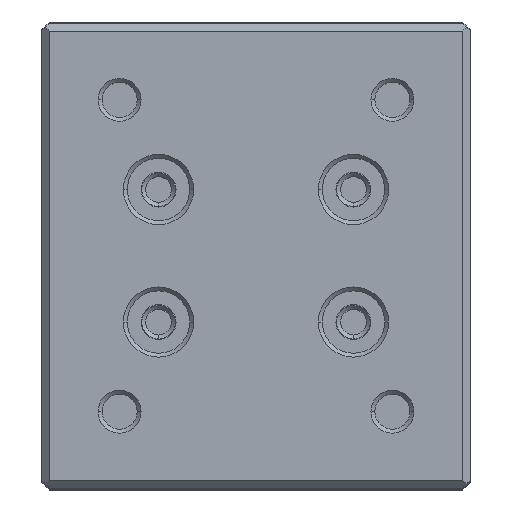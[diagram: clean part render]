
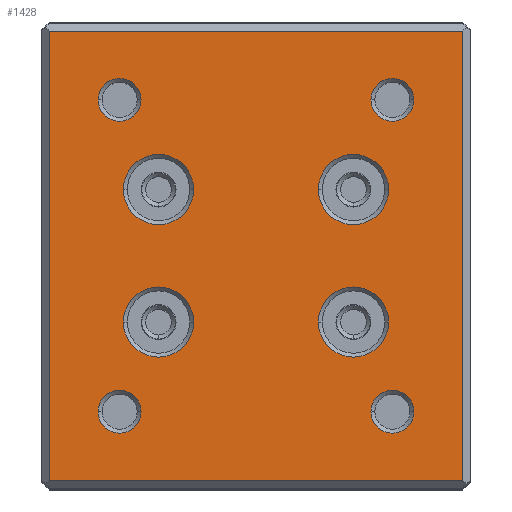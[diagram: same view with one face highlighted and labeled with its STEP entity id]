
A CAD part, top view. The second image highlights one B-rep face of the part: STEP entity #1428.
In plain terms, the highlighted planar face has unit normal (0, 0, 1) as drawn and (0, 0, -1) by its records, which use the part's own axes.
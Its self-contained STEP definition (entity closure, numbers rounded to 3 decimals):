
#1=CARTESIAN_POINT('',(17.5,-20.,0.));
#2=DIRECTION('',(0.,0.,1.));
#3=DIRECTION('',(1.,0.,0.));
#4=AXIS2_PLACEMENT_3D('',#1,#2,#3);
#6=CARTESIAN_POINT('',(17.5,-20.,0.));
#7=DIRECTION('',(0.,0.,1.));
#8=DIRECTION('',(-1.,0.,0.));
#9=AXIS2_PLACEMENT_3D('',#6,#7,#8);
#11=CARTESIAN_POINT('',(-17.5,-20.,0.));
#12=DIRECTION('',(0.,0.,1.));
#13=DIRECTION('',(1.,0.,0.));
#14=AXIS2_PLACEMENT_3D('',#11,#12,#13);
#16=CARTESIAN_POINT('',(-17.5,-20.,0.));
#17=DIRECTION('',(0.,0.,1.));
#18=DIRECTION('',(-1.,0.,0.));
#19=AXIS2_PLACEMENT_3D('',#16,#17,#18);
#21=CARTESIAN_POINT('',(-17.5,20.,0.));
#22=DIRECTION('',(0.,0.,1.));
#23=DIRECTION('',(1.,0.,0.));
#24=AXIS2_PLACEMENT_3D('',#21,#22,#23);
#26=CARTESIAN_POINT('',(-17.5,20.,0.));
#27=DIRECTION('',(0.,0.,1.));
#28=DIRECTION('',(-1.,0.,0.));
#29=AXIS2_PLACEMENT_3D('',#26,#27,#28);
#31=CARTESIAN_POINT('',(17.5,20.,0.));
#32=DIRECTION('',(0.,0.,1.));
#33=DIRECTION('',(1.,0.,0.));
#34=AXIS2_PLACEMENT_3D('',#31,#32,#33);
#36=CARTESIAN_POINT('',(17.5,20.,0.));
#37=DIRECTION('',(0.,0.,1.));
#38=DIRECTION('',(-1.,0.,0.));
#39=AXIS2_PLACEMENT_3D('',#36,#37,#38);
#41=DIRECTION('',(0.,-1.,0.));
#42=VECTOR('',#41,57.6);
#43=CARTESIAN_POINT('',(26.5,28.8,0.));
#44=LINE('',#43,#42);
#45=DIRECTION('',(1.,0.,0.));
#46=VECTOR('',#45,53.);
#47=CARTESIAN_POINT('',(-26.5,28.8,0.));
#48=LINE('',#47,#46);
#49=DIRECTION('',(0.,1.,0.));
#50=VECTOR('',#49,57.6);
#51=CARTESIAN_POINT('',(-26.5,-28.8,0.));
#52=LINE('',#51,#50);
#53=DIRECTION('',(-1.,0.,0.));
#54=VECTOR('',#53,53.);
#55=CARTESIAN_POINT('',(26.5,-28.8,0.));
#56=LINE('',#55,#54);
#57=CARTESIAN_POINT('',(-12.5,8.5,0.));
#58=DIRECTION('',(0.,0.,1.));
#59=DIRECTION('',(-1.,0.,0.));
#60=AXIS2_PLACEMENT_3D('',#57,#58,#59);
#62=CARTESIAN_POINT('',(-12.5,8.5,0.));
#63=DIRECTION('',(0.,0.,1.));
#64=DIRECTION('',(1.,0.,0.));
#65=AXIS2_PLACEMENT_3D('',#62,#63,#64);
#67=CARTESIAN_POINT('',(-12.5,-8.5,0.));
#68=DIRECTION('',(0.,0.,1.));
#69=DIRECTION('',(-1.,0.,0.));
#70=AXIS2_PLACEMENT_3D('',#67,#68,#69);
#72=CARTESIAN_POINT('',(-12.5,-8.5,0.));
#73=DIRECTION('',(0.,0.,1.));
#74=DIRECTION('',(1.,0.,0.));
#75=AXIS2_PLACEMENT_3D('',#72,#73,#74);
#77=CARTESIAN_POINT('',(12.5,8.5,0.));
#78=DIRECTION('',(0.,0.,1.));
#79=DIRECTION('',(-1.,0.,0.));
#80=AXIS2_PLACEMENT_3D('',#77,#78,#79);
#82=CARTESIAN_POINT('',(12.5,8.5,0.));
#83=DIRECTION('',(0.,0.,1.));
#84=DIRECTION('',(1.,0.,0.));
#85=AXIS2_PLACEMENT_3D('',#82,#83,#84);
#87=CARTESIAN_POINT('',(12.5,-8.5,0.));
#88=DIRECTION('',(0.,0.,1.));
#89=DIRECTION('',(-1.,0.,0.));
#90=AXIS2_PLACEMENT_3D('',#87,#88,#89);
#92=CARTESIAN_POINT('',(12.5,-8.5,0.));
#93=DIRECTION('',(0.,0.,1.));
#94=DIRECTION('',(1.,0.,0.));
#95=AXIS2_PLACEMENT_3D('',#92,#93,#94);
#1159=CARTESIAN_POINT('',(20.25,-20.,0.));
#1160=CARTESIAN_POINT('',(14.75,-20.,0.));
#1161=VERTEX_POINT('',#1159);
#1162=VERTEX_POINT('',#1160);
#1167=CARTESIAN_POINT('',(-14.75,-20.,0.));
#1168=CARTESIAN_POINT('',(-20.25,-20.,0.));
#1169=VERTEX_POINT('',#1167);
#1170=VERTEX_POINT('',#1168);
#1175=CARTESIAN_POINT('',(-14.75,20.,0.));
#1176=CARTESIAN_POINT('',(-20.25,20.,0.));
#1177=VERTEX_POINT('',#1175);
#1178=VERTEX_POINT('',#1176);
#1183=CARTESIAN_POINT('',(20.25,20.,0.));
#1184=CARTESIAN_POINT('',(14.75,20.,0.));
#1185=VERTEX_POINT('',#1183);
#1186=VERTEX_POINT('',#1184);
#1231=CARTESIAN_POINT('',(26.5,28.8,0.));
#1232=CARTESIAN_POINT('',(26.5,-28.8,0.));
#1233=VERTEX_POINT('',#1231);
#1234=VERTEX_POINT('',#1232);
#1241=CARTESIAN_POINT('',(-26.5,28.8,0.));
#1242=VERTEX_POINT('',#1241);
#1255=CARTESIAN_POINT('',(-26.5,-28.8,0.));
#1256=VERTEX_POINT('',#1255);
#1279=CARTESIAN_POINT('',(-17.,8.5,0.));
#1280=CARTESIAN_POINT('',(-8.,8.5,0.));
#1281=VERTEX_POINT('',#1279);
#1282=VERTEX_POINT('',#1280);
#1287=CARTESIAN_POINT('',(-17.,-8.5,0.));
#1288=CARTESIAN_POINT('',(-8.,-8.5,0.));
#1289=VERTEX_POINT('',#1287);
#1290=VERTEX_POINT('',#1288);
#1295=CARTESIAN_POINT('',(8.,8.5,0.));
#1296=CARTESIAN_POINT('',(17.,8.5,0.));
#1297=VERTEX_POINT('',#1295);
#1298=VERTEX_POINT('',#1296);
#1303=CARTESIAN_POINT('',(8.,-8.5,0.));
#1304=CARTESIAN_POINT('',(17.,-8.5,0.));
#1305=VERTEX_POINT('',#1303);
#1306=VERTEX_POINT('',#1304);
#1365=CARTESIAN_POINT('',(0.,0.,0.));
#1366=DIRECTION('',(0.,0.,1.));
#1367=DIRECTION('',(1.,0.,0.));
#1368=AXIS2_PLACEMENT_3D('',#1365,#1366,#1367);
#1369=PLANE('',#1368);
#1371=ORIENTED_EDGE('',*,*,#1370,.F.);
#1373=ORIENTED_EDGE('',*,*,#1372,.F.);
#1375=ORIENTED_EDGE('',*,*,#1374,.F.);
#1377=ORIENTED_EDGE('',*,*,#1376,.F.);
#1378=EDGE_LOOP('',(#1371,#1373,#1375,#1377));
#1379=FACE_OUTER_BOUND('',#1378,.F.);
#1381=ORIENTED_EDGE('',*,*,#1380,.F.);
#1383=ORIENTED_EDGE('',*,*,#1382,.F.);
#1384=EDGE_LOOP('',(#1381,#1383));
#1385=FACE_BOUND('',#1384,.F.);
#1387=ORIENTED_EDGE('',*,*,#1386,.F.);
#1389=ORIENTED_EDGE('',*,*,#1388,.F.);
#1390=EDGE_LOOP('',(#1387,#1389));
#1391=FACE_BOUND('',#1390,.F.);
#1393=ORIENTED_EDGE('',*,*,#1392,.F.);
#1395=ORIENTED_EDGE('',*,*,#1394,.F.);
#1396=EDGE_LOOP('',(#1393,#1395));
#1397=FACE_BOUND('',#1396,.F.);
#1399=ORIENTED_EDGE('',*,*,#1398,.F.);
#1401=ORIENTED_EDGE('',*,*,#1400,.F.);
#1402=EDGE_LOOP('',(#1399,#1401));
#1403=FACE_BOUND('',#1402,.F.);
#1405=ORIENTED_EDGE('',*,*,#1404,.F.);
#1407=ORIENTED_EDGE('',*,*,#1406,.F.);
#1408=EDGE_LOOP('',(#1405,#1407));
#1409=FACE_BOUND('',#1408,.F.);
#1411=ORIENTED_EDGE('',*,*,#1410,.F.);
#1413=ORIENTED_EDGE('',*,*,#1412,.F.);
#1414=EDGE_LOOP('',(#1411,#1413));
#1415=FACE_BOUND('',#1414,.F.);
#1417=ORIENTED_EDGE('',*,*,#1416,.F.);
#1419=ORIENTED_EDGE('',*,*,#1418,.F.);
#1420=EDGE_LOOP('',(#1417,#1419));
#1421=FACE_BOUND('',#1420,.F.);
#1423=ORIENTED_EDGE('',*,*,#1422,.F.);
#1425=ORIENTED_EDGE('',*,*,#1424,.F.);
#1426=EDGE_LOOP('',(#1423,#1425));
#1427=FACE_BOUND('',#1426,.F.);
#1428=ADVANCED_FACE('',(#1379,#1385,#1391,#1397,#1403,#1409,#1415,#1421,#1427),
#1369,.F.);
#5=CIRCLE('',#4,2.75);
#10=CIRCLE('',#9,2.75);
#15=CIRCLE('',#14,2.75);
#20=CIRCLE('',#19,2.75);
#25=CIRCLE('',#24,2.75);
#30=CIRCLE('',#29,2.75);
#35=CIRCLE('',#34,2.75);
#40=CIRCLE('',#39,2.75);
#61=CIRCLE('',#60,4.5);
#66=CIRCLE('',#65,4.5);
#71=CIRCLE('',#70,4.5);
#76=CIRCLE('',#75,4.5);
#81=CIRCLE('',#80,4.5);
#86=CIRCLE('',#85,4.5);
#91=CIRCLE('',#90,4.5);
#96=CIRCLE('',#95,4.5);
#1370=EDGE_CURVE('',#1233,#1234,#44,.T.);
#1372=EDGE_CURVE('',#1242,#1233,#48,.T.);
#1374=EDGE_CURVE('',#1256,#1242,#52,.T.);
#1376=EDGE_CURVE('',#1234,#1256,#56,.T.);
#1380=EDGE_CURVE('',#1169,#1170,#15,.T.);
#1382=EDGE_CURVE('',#1170,#1169,#20,.T.);
#1386=EDGE_CURVE('',#1177,#1178,#25,.T.);
#1388=EDGE_CURVE('',#1178,#1177,#30,.T.);
#1392=EDGE_CURVE('',#1185,#1186,#35,.T.);
#1394=EDGE_CURVE('',#1186,#1185,#40,.T.);
#1398=EDGE_CURVE('',#1161,#1162,#5,.T.);
#1400=EDGE_CURVE('',#1162,#1161,#10,.T.);
#1404=EDGE_CURVE('',#1281,#1282,#61,.T.);
#1406=EDGE_CURVE('',#1282,#1281,#66,.T.);
#1410=EDGE_CURVE('',#1289,#1290,#71,.T.);
#1412=EDGE_CURVE('',#1290,#1289,#76,.T.);
#1416=EDGE_CURVE('',#1297,#1298,#81,.T.);
#1418=EDGE_CURVE('',#1298,#1297,#86,.T.);
#1422=EDGE_CURVE('',#1305,#1306,#91,.T.);
#1424=EDGE_CURVE('',#1306,#1305,#96,.T.);
